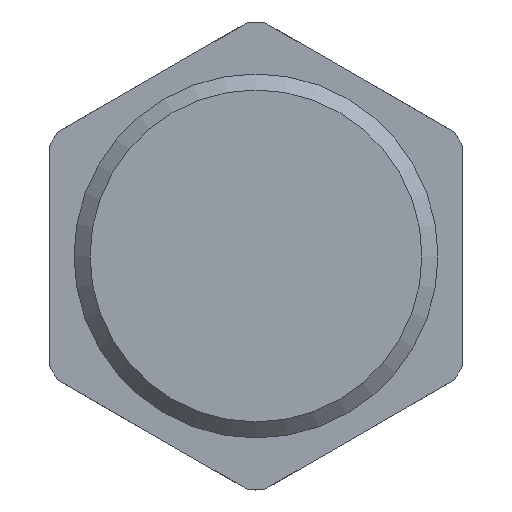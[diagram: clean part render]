
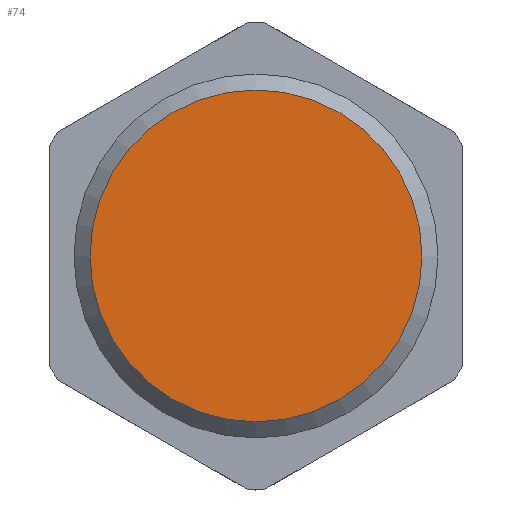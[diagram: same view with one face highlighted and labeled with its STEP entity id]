
A CAD part, front view. The second image highlights one B-rep face of the part: STEP entity #74.
In plain terms, the highlighted planar face has unit normal (0, -1, 0).
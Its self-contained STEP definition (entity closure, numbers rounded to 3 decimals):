
#74 = ADVANCED_FACE( '', ( #158 ), #159, .F. );
#158 = FACE_OUTER_BOUND( '', #248, .T. );
#159 = PLANE( '', #249 );
#248 = EDGE_LOOP( '', ( #413 ) );
#249 = AXIS2_PLACEMENT_3D( '', #414, #415, #416 );
#413 = ORIENTED_EDGE( '', *, *, #517, .T. );
#414 = CARTESIAN_POINT( '', ( 12.059, 0., 0. ) );
#415 = DIRECTION( '', ( 0., 1., 0. ) );
#416 = DIRECTION( '', ( 0., 0., 1. ) );
#517 = EDGE_CURVE( '', #596, #596, #597, .T. );
#596 = VERTEX_POINT( '', #704 );
#597 = CIRCLE( '', #705, 12.059 );
#704 = CARTESIAN_POINT( '', ( 0., 0., -12.059 ) );
#705 = AXIS2_PLACEMENT_3D( '', #889, #890, #891 );
#889 = CARTESIAN_POINT( '', ( 0., 0., 0. ) );
#890 = DIRECTION( '', ( 0., -1., 0. ) );
#891 = DIRECTION( '', ( 0., 0., -1. ) );
